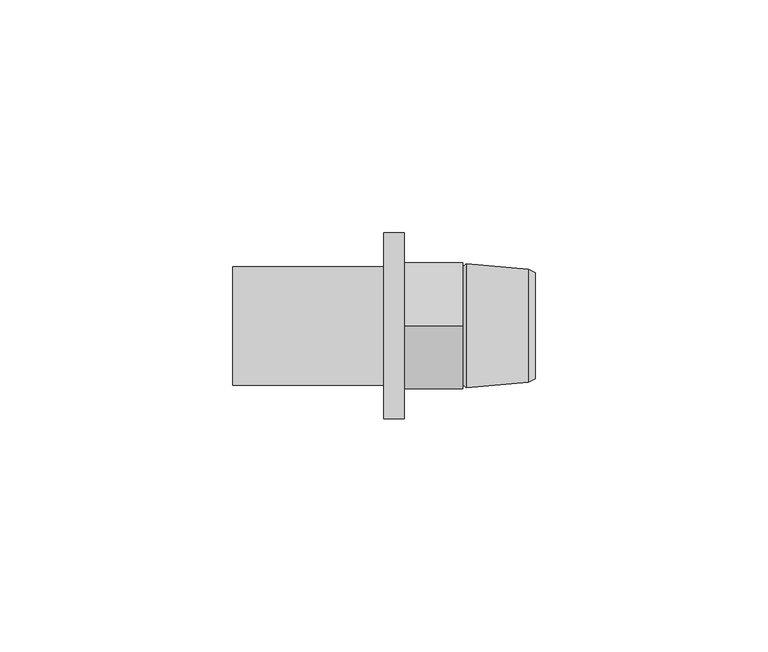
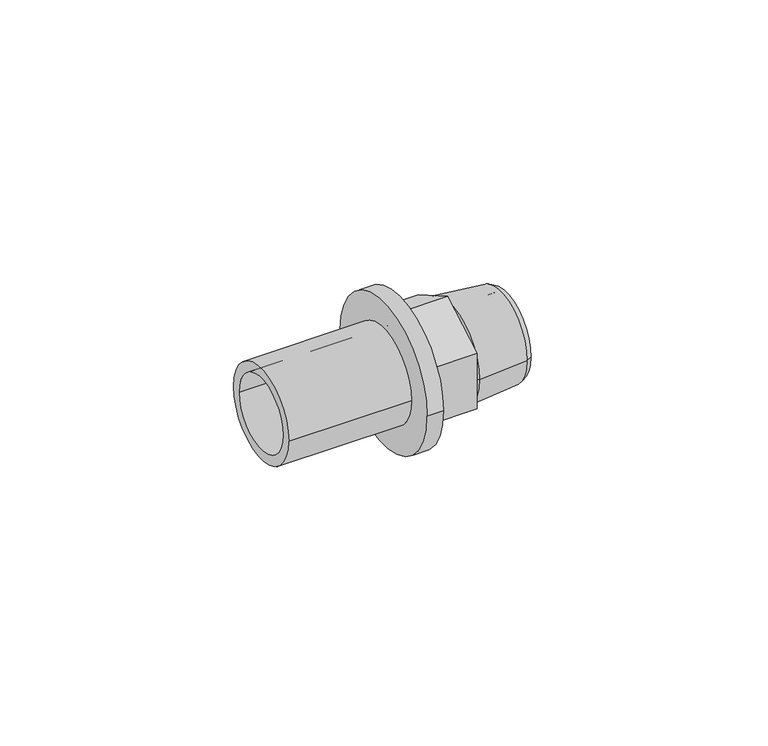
"""IFC4 building model written with IfcOpenShell, lengths in millimetres: pipe fitting geometry, REHAU_RAUTITAN_Adaptor_RX+, with external thread : REHAU_RAUTITAN_Adaptor_RX+, with external thread."""

import ifcopenshell
import ifcopenshell.guid

model = None  # the IFC model being written
_history = None  # IfcOwnerHistory: only IFC2X3 demands one
_inside = {}  # id of a spatial element -> (the spatial element, [elements in it])
_under = {}  # id of a project, library or spatial element -> (it, [spatial elements below it])
_declared = {}  # id of a project -> (the project, [libraries it declares])
_typed = {}  # id of a type object -> (the type object, [elements of that type])
_made_of = {}  # id of a material, layer set ... -> (it, [elements and type objects made of it])


def new_model(schema):
    """Start an empty IFC model of exactly this schema.

    Asked for "IFC4X3", IfcOpenShell would pick the latest addendum, in which some entities
    have other attributes; the version numbers below select the first issue.
    IFC2X3 requires an IfcOwnerHistory on every rooted entity: one is made here for all.
    """
    global model, _history
    if schema == "IFC4X3":
        model = ifcopenshell.file(schema_version=(4, 3, 0, 0))
    else:
        model = ifcopenshell.file(schema=schema)
    _inside.clear()
    _under.clear()
    _declared.clear()
    _typed.clear()
    _made_of.clear()
    _history = None
    if model.schema == "IFC2X3":
        org = make("IfcOrganization", Name="unknown")
        user = make(
            "IfcPersonAndOrganization",
            ThePerson=make("IfcPerson", FamilyName="unknown"),
            TheOrganization=org,
        )
        app = make(
            "IfcApplication",
            ApplicationDeveloper=org,
            Version="unknown",
            ApplicationFullName="unknown",
            ApplicationIdentifier="unknown",
        )
        _history = make(
            "IfcOwnerHistory",
            OwningUser=user,
            OwningApplication=app,
            ChangeAction="ADDED",
            CreationDate=0,
        )
    return model


def make(cls, **values):
    """One entity of the class cls with the attributes given. An attribute that is None is left unset."""
    return model.create_entity(
        cls, **{name: value for name, value in values.items() if value is not None}
    )


def rooted(cls, **values):
    """An entity with a GlobalId (a new one), such as an element, a storey or a relation."""
    return make(cls, GlobalId=ifcopenshell.guid.new(), OwnerHistory=_history, **values)


def si_unit(unit_type, name, prefix=None):
    """IfcSIUnit, for example si_unit("LENGTHUNIT", "METRE", prefix="MILLI")."""
    return make("IfcSIUnit", UnitType=unit_type, Prefix=prefix, Name=name)


def assignment(units):
    """IfcUnitAssignment: the units of a project."""
    return None if units is None else make("IfcUnitAssignment", Units=units)


def point(xyz):
    """IfcCartesianPoint."""
    return None if xyz is None else make("IfcCartesianPoint", Coordinates=xyz)


def direction(xyz):
    """IfcDirection."""
    return None if xyz is None else make("IfcDirection", DirectionRatios=xyz)


def frame(location, z_axis=None, x_axis=None):
    """IfcAxis2Placement3D, a coordinate frame: its origin and axes. An axis left out is left unset."""
    return make(
        "IfcAxis2Placement3D",
        Location=point(location),
        Axis=direction(z_axis),
        RefDirection=direction(x_axis),
    )


def frame_2d(location, x_axis=None):
    """IfcAxis2Placement2D, a coordinate frame in the plane: its origin and x axis."""
    return make(
        "IfcAxis2Placement2D", Location=point(location), RefDirection=direction(x_axis)
    )


def origin():
    """The frame at (0, 0, 0) with its axes left unset."""
    return frame((0.0, 0.0, 0.0))


def origin_2d():
    """The frame at (0, 0) in the plane with its x axis left unset."""
    return frame_2d((0.0, 0.0))


def place(relative_to, where):
    """IfcLocalPlacement: puts the frame where relative to a parent placement (None: the world)."""
    return make(
        "IfcLocalPlacement", PlacementRelTo=relative_to, RelativePlacement=where
    )


def context(
    kind, dimensions, precision=None, world=None, true_north=None, identifier=None
):
    """IfcGeometricRepresentationContext, for example the 3D "Model" context."""
    return make(
        "IfcGeometricRepresentationContext",
        ContextIdentifier=identifier,
        ContextType=kind,
        CoordinateSpaceDimension=dimensions,
        Precision=precision,
        WorldCoordinateSystem=world,
        TrueNorth=true_north,
    )


def project(units=None, contexts=None):
    """IfcProject with its units and contexts."""
    return rooted(
        "IfcProject",
        Name="project",
        RepresentationContexts=contexts,
        UnitsInContext=assignment(units),
    )


def spatial(cls, under=None, at=None, **own):
    """A site, building, storey or space (cls), placed at a placement, below another one or the project."""
    s = rooted(cls, ObjectPlacement=at, **own)
    if under is not None:
        _under.setdefault(under.id(), (under, []))[1].append(s)
    return s


def polyline(points):
    """IfcPolyline through the points."""
    return make("IfcPolyline", Points=[point(p) for p in points])


def circle_curve(where, radius):
    """IfcCircle in the frame where."""
    return make("IfcCircle", Position=where, Radius=radius)


def trimmed(basis, trim1, trim2, sense, master):
    """IfcTrimmedCurve: the piece of a basis curve between two trims."""
    return make(
        "IfcTrimmedCurve",
        BasisCurve=basis,
        Trim1=trim1,
        Trim2=trim2,
        SenseAgreement=sense,
        MasterRepresentation=master,
    )


def segment(curve, same_sense, transition):
    """IfcCompositeCurveSegment."""
    return make(
        "IfcCompositeCurveSegment",
        Transition=transition,
        SameSense=same_sense,
        ParentCurve=curve,
    )


def composite_curve(segments, self_intersect=None):
    """IfcCompositeCurve: segments joined end to end."""
    return make("IfcCompositeCurve", Segments=segments, SelfIntersect=self_intersect)


def outline(outer, holes=None, kind="AREA"):
    """IfcArbitraryClosedProfileDef: a profile drawn as a closed curve; with holes, ...WithVoids."""
    if holes is None:
        return make("IfcArbitraryClosedProfileDef", ProfileType=kind, OuterCurve=outer)
    return make(
        "IfcArbitraryProfileDefWithVoids",
        ProfileType=kind,
        OuterCurve=outer,
        InnerCurves=holes,
    )


def extrude(swept, where, along, depth):
    """IfcExtrudedAreaSolid: the profile swept, set in the frame where, extruded along a direction by depth."""
    return make(
        "IfcExtrudedAreaSolid",
        SweptArea=swept,
        Position=where,
        ExtrudedDirection=direction(along),
        Depth=depth,
    )


def shape(context_of_items, identifier, shape_type, items):
    """IfcShapeRepresentation: the items that make up one representation, for example the "Body"."""
    return make(
        "IfcShapeRepresentation",
        ContextOfItems=context_of_items,
        RepresentationIdentifier=identifier,
        RepresentationType=shape_type,
        Items=items,
    )


def source(mapping_origin, context_of_items, identifier, shape_type, items):
    """IfcRepresentationMap: a shape defined once, which mapped items show again and again."""
    return make(
        "IfcRepresentationMap",
        MappingOrigin=mapping_origin,
        MappedRepresentation=shape(context_of_items, identifier, shape_type, items),
    )


def transform(
    local_origin,
    x_axis=None,
    y_axis=None,
    z_axis=None,
    scale=None,
    scale2=None,
    scale3=None,
    uniform=True,
):
    """IfcCartesianTransformationOperator3D, or its non-uniform kind. x_axis, y_axis, z_axis: its Axis1, 2, 3."""
    if uniform:
        return make(
            "IfcCartesianTransformationOperator3D",
            Axis1=direction(x_axis),
            Axis2=direction(y_axis),
            LocalOrigin=point(local_origin),
            Scale=scale,
            Axis3=direction(z_axis),
        )
    return make(
        "IfcCartesianTransformationOperator3DnonUniform",
        Axis1=direction(x_axis),
        Axis2=direction(y_axis),
        LocalOrigin=point(local_origin),
        Scale=scale,
        Axis3=direction(z_axis),
        Scale2=scale2,
        Scale3=scale3,
    )


def mapped(mapping_source, mapping_target):
    """IfcMappedItem: shows the shape of a source again, moved by a transform."""
    return make(
        "IfcMappedItem", MappingSource=mapping_source, MappingTarget=mapping_target
    )


def made_of(thing, what):
    """Note that an element or type object is made of a material, layer set ...; save() writes the relation."""
    if what is not None:
        _made_of.setdefault(what.id(), (what, []))[1].append(thing)
    return thing


def element(
    cls,
    number,
    at=None,
    inside=None,
    cuts=None,
    type_object=None,
    material=None,
    context=None,
    identifier="Body",
    shape_type=None,
    held_by="IfcProductDefinitionShape",
    body=None,
    shapes=None,
    **own,
):
    """One element of the class cls, such as IfcWall. Its Tag is "e" and its number.

    at: its placement. inside: the storey or other place that contains it. cuts: it is an
    opening in that element (IfcRelVoidsElement). A single representation is given by context,
    identifier, shape_type and body (its items); several are given by shapes. held_by: the class
    of the entity that holds the representations. save() writes the other relations.
    """
    e = rooted(cls, Tag="e%d" % number, ObjectPlacement=at, **own)
    if body is not None:
        shapes = [shape(context, identifier, shape_type, body)]
    if shapes is not None:
        e.Representation = make(held_by, Representations=shapes)
    if inside is not None:
        _inside.setdefault(inside.id(), (inside, []))[1].append(e)
    if cuts is not None:
        rooted(
            "IfcRelVoidsElement", RelatingBuildingElement=cuts, RelatedOpeningElement=e
        )
    if type_object is not None:
        _typed.setdefault(type_object.id(), (type_object, []))[1].append(e)
    return made_of(e, material)


def aggregate(whole, parts):
    """IfcRelAggregates: a whole, such as a stair, and the parts it consists of."""
    return rooted("IfcRelAggregates", RelatingObject=whole, RelatedObjects=parts)


def save(model, path):
    """Write the relations noted so far, then the file.

    IfcRelAggregates (storeys below a building ...), IfcRelContainedInSpatialStructure (elements
    in a storey), IfcRelDefinesByType, IfcRelAssociatesMaterial and IfcRelDeclares: one each for
    every whole, place, type object, material and project.
    """
    for whole, parts in _under.values():
        aggregate(whole, parts)
    for where, things in _inside.values():
        rooted(
            "IfcRelContainedInSpatialStructure",
            RelatedElements=things,
            RelatingStructure=where,
        )
    for kind, things in _typed.values():
        rooted("IfcRelDefinesByType", RelatedObjects=things, RelatingType=kind)
    for what, things in _made_of.values():
        rooted("IfcRelAssociatesMaterial", RelatedObjects=things, RelatingMaterial=what)
    for by, libraries in _declared.values():
        rooted("IfcRelDeclares", RelatingContext=by, RelatedDefinitions=libraries)
    model.write(path)


def plane_surface(at):
    """IfcPlane: the flat surface through the origin of the frame at, square to its z axis."""
    return make("IfcPlane", Position=at)


def cylinder_surface(at, radius):
    """IfcCylindricalSurface: all points at the distance radius from the z axis of the frame at."""
    return make("IfcCylindricalSurface", Position=at, Radius=radius)


def revolved_surface(curve, axis_point, axis_direction):
    """IfcSurfaceOfRevolution: the curve turned about the line through axis_point along axis_direction."""
    return make(
        "IfcSurfaceOfRevolution",
        SweptCurve=make("IfcArbitraryOpenProfileDef", ProfileType="CURVE", Curve=curve),
        AxisPosition=make("IfcAxis1Placement", Location=point(axis_point), Axis=direction(axis_direction)),
    )


def advanced_brep(points, edges, surfaces, faces):
    """IfcAdvancedBrep: a solid bounded by faces that lie on surfaces and meet in shared edges.

    An edge is (start, end): straight between two places in points (the first is 0);
    or (start, end, curve); or (start, end, curve, False) where it runs against its curve.
    A face is (place in surfaces, loops), or (place, loops, False) where it looks against
    its surface's normal. A loop lists edges by number (the first is 1), with a minus sign
    where the edge is run from its end to its start. The first loop is the outer one.
    """
    corners = [point(p) for p in points]
    vertices = [make("IfcVertexPoint", VertexGeometry=c) for c in corners]
    made = []
    for start, end, *more in edges:
        made.append(
            make(
                "IfcEdgeCurve",
                EdgeStart=vertices[start],
                EdgeEnd=vertices[end],
                EdgeGeometry=more[0] if more else make("IfcPolyline", Points=[corners[start], corners[end]]),
                SameSense=more[1] if len(more) > 1 else True,
            )
        )
    hull = []
    for where, loops, *sense in faces:
        bounds = []
        for j, loop in enumerate(loops):
            ring = [make("IfcOrientedEdge", EdgeElement=made[abs(k) - 1], Orientation=k > 0) for k in loop]
            bounds.append(
                make(
                    "IfcFaceOuterBound" if j == 0 else "IfcFaceBound",
                    Bound=make("IfcEdgeLoop", EdgeList=ring),
                    Orientation=True,
                )
            )
        hull.append(make("IfcAdvancedFace", Bounds=bounds, FaceSurface=surfaces[where], SameSense=sense[0] if sense else True))
    return make("IfcAdvancedBrep", Outer=make("IfcClosedShell", CfsFaces=hull))


def pipe_fitting_4d9bfbce(model_context):
    return source(origin(), model_context, "Body", "SolidModel", [
        advanced_brep(
        [(13.7532803, 9.5, 0.0), (13.7532803, -9.5, 0.0), (28.19, -9.5, 0.0), (28.19, 9.5, 0.0), (12.65, 8.3967197, 0.0), (12.65, -8.3967197, 0.0), (13.3906902, 13.29, 0.0), (13.3906902, -13.29, 0.0), (12.65, -12.7, 0.0), (12.65, 12.7, 0.0), (26.6900007, 12.13, 0.0), (26.6900007, -12.13, 0.0), (28.19, 11.375, 0.0), (28.19, -11.375, 0.0)],
        [
            (0, 1, circle_curve(frame((13.7532803, 0.0, 0.0), z_axis=(-1.0, 0.0, 0.0), x_axis=(0.0, -1.0, 0.0)), 9.5)),
            (1, 2),
            (2, 3, circle_curve(frame((28.19, 0.0, 0.0), z_axis=(1.0, 0.0, 0.0), x_axis=(0.0, -1.0, 0.0)), 9.5)),
            (3, 0),
            (4, 5, circle_curve(frame((12.65, 0.0, 0.0), z_axis=(-1.0, 0.0, 0.0), x_axis=(0.0, -1.0, 0.0)), 8.3967197)),
            (5, 1),
            (0, 4),
            (6, 7, circle_curve(frame((13.3906902, 0.0, 0.0), z_axis=(-1.0, 0.0, 0.0), x_axis=(0.0, -1.0, 0.0)), 13.29)),
            (7, 8),
            (8, 9, circle_curve(frame((12.65, 0.0, 0.0), z_axis=(1.0, 0.0, 0.0), x_axis=(0.0, -1.0, 0.0)), 12.7)),
            (9, 6),
            (10, 11, circle_curve(frame((26.6900007, 0.0, 0.0), z_axis=(-1.0, 0.0, 0.0), x_axis=(0.0, -1.0, 0.0)), 12.13)),
            (11, 7),
            (6, 10),
            (12, 13, circle_curve(frame((28.19, 0.0, 0.0), z_axis=(-1.0, 0.0, 0.0), x_axis=(0.0, -1.0, 0.0)), 11.375)),
            (13, 11),
            (10, 12),
            (1, 0, circle_curve(frame((13.7532803, 0.0, 0.0), z_axis=(-1.0, 0.0, 0.0), x_axis=(0.0, 1.0, 0.0)), 9.5)),
            (3, 2, circle_curve(frame((28.19, 0.0, 0.0), z_axis=(1.0, 0.0, 0.0), x_axis=(0.0, 1.0, 0.0)), 9.5)),
            (5, 4, circle_curve(frame((12.65, 0.0, 0.0), z_axis=(-1.0, 0.0, 0.0), x_axis=(0.0, 1.0, 0.0)), 8.3967197)),
            (8, 9, circle_curve(frame((12.65, 0.0, 0.0), z_axis=(-1.0, 0.0, 0.0), x_axis=(0.0, 1.0, 0.0)), 12.7)),
            (7, 6, circle_curve(frame((13.3906902, 0.0, 0.0), z_axis=(-1.0, 0.0, 0.0), x_axis=(0.0, 1.0, 0.0)), 13.29)),
            (11, 10, circle_curve(frame((26.6900007, 0.0, 0.0), z_axis=(-1.0, 0.0, 0.0), x_axis=(0.0, 1.0, 0.0)), 12.13)),
            (13, 12, circle_curve(frame((28.19, 0.0, 0.0), z_axis=(-1.0, 0.0, 0.0), x_axis=(0.0, 1.0, 0.0)), 11.375)),
        ],
        [
            revolved_surface(polyline([(28.19, -9.5, 0.0), (13.7532803, -9.5, 0.0)]), (0.0, 0.0, 0.0), (1.0, 0.0, 0.0)),
            revolved_surface(polyline([(13.7532803, -9.5, 0.0), (12.65, -8.3967197, 0.0)]), (0.0, 0.0, 0.0), (1.0, 0.0, 0.0)),
            revolved_surface(polyline([(12.65, -12.7, 0.0), (13.3906902, -13.29, 0.0)]), (0.0, 0.0, 0.0), (1.0, 0.0, 0.0)),
            revolved_surface(polyline([(13.3906902, -13.29, 0.0), (26.6900007, -12.13, 0.0)]), (0.0, 0.0, 0.0), (1.0, 0.0, 0.0)),
            revolved_surface(polyline([(26.6900007, -12.13, 0.0), (28.19, -11.375, 0.0)]), (0.0, 0.0, 0.0), (1.0, 0.0, 0.0)),
            revolved_surface(polyline([(28.19, 9.5, 0.0), (13.7532803, 9.5, 0.0)]), (0.0, 0.0, 0.0), (1.0, 0.0, 0.0)),
            revolved_surface(polyline([(13.7532803, 9.5, 0.0), (12.65, 8.3967197, 0.0)]), (0.0, 0.0, 0.0), (1.0, 0.0, 0.0)),
            plane_surface(frame((12.65, 0.0, 0.0), z_axis=(-1.0, 0.0, 0.0), x_axis=(0.0, 1.0, 0.0))),
            revolved_surface(polyline([(12.65, 12.7, 0.0), (13.3906902, 13.29, 0.0)]), (0.0, 0.0, 0.0), (1.0, 0.0, 0.0)),
            revolved_surface(polyline([(13.3906902, 13.29, 0.0), (26.6900007, 12.13, 0.0)]), (0.0, 0.0, 0.0), (1.0, 0.0, 0.0)),
            revolved_surface(polyline([(26.6900007, 12.13, 0.0), (28.19, 11.375, 0.0)]), (0.0, 0.0, 0.0), (1.0, 0.0, 0.0)),
            plane_surface(frame((28.19, 0.0, 0.0), z_axis=(1.0, 0.0, 0.0), x_axis=(0.0, 1.0, 0.0))),
        ],
        [
            (0, [[1, 2, 3, 4]]),
            (1, [[5, 6, -1, 7]]),
            (2, [[8, 9, 10, 11]]),
            (3, [[12, 13, -8, 14]]),
            (4, [[15, 16, -12, 17]]),
            (5, [[18, -4, 19, -2]]),
            (6, [[20, -7, -18, -6]]),
            (7, [[21, -10], [-20, -5]]),
            (8, [[22, -11, -21, -9]]),
            (9, [[23, -14, -22, -13]]),
            (10, [[24, -17, -23, -16]]),
            (11, [[-24, -15], [-19, -3]]),
        ],
    ),
        extrude(outline(polyline([(0.0, -15.5884573), (-13.5, -7.7942286), (-13.5, 7.7942286), (0.0, 15.5884573), (13.5, 7.7942286), (13.5, -7.7942286), (0.0, -15.5884573)]), holes=[composite_curve([segment(trimmed(circle_curve(origin_2d(), 10.0), [point((-10.0, 0.0))], [point((10.0, 0.0))], True, "CARTESIAN"), True, "CONTINUOUS"), segment(trimmed(circle_curve(origin_2d(), 10.0), [point((10.0, 0.0))], [point((-10.0, 0.0))], True, "CARTESIAN"), True, "CONTINUOUS")], self_intersect=False)]), frame((0.0, 0.0, 0.0), z_axis=(1.0, 0.0, 0.0), x_axis=(0.0, 1.0, 0.0)), (0.0, 0.0, 1.0), 12.65),
        advanced_brep(
        [(-36.81, 10.0, 0.0), (-36.81, -10.0, 0.0), (0.0, -10.0, 0.0), (0.0, 10.0, 0.0), (-4.33, 12.725, 0.0), (-4.33, -12.725, 0.0), (-36.81, -12.725, 0.0), (-36.81, 12.725, 0.0), (0.0, 20.0, 0.0), (0.0, -20.0, 0.0), (-4.33, -20.0, 0.0), (-4.33, 20.0, 0.0)],
        [
            (0, 1, circle_curve(frame((-36.81, 0.0, 0.0), z_axis=(-1.0, 0.0, 0.0), x_axis=(0.0, -1.0, 0.0)), 10.0)),
            (1, 2),
            (2, 3, circle_curve(frame((0.0, 0.0, 0.0), z_axis=(1.0, 0.0, 0.0), x_axis=(0.0, -1.0, 0.0)), 10.0)),
            (3, 0),
            (4, 5, circle_curve(frame((-4.33, 0.0, 0.0), z_axis=(-1.0, 0.0, 0.0), x_axis=(0.0, -1.0, 0.0)), 12.725)),
            (5, 6),
            (6, 7, circle_curve(frame((-36.81, 0.0, 0.0), z_axis=(1.0, 0.0, 0.0), x_axis=(0.0, -1.0, 0.0)), 12.725)),
            (7, 4),
            (8, 9, circle_curve(frame((0.0, 0.0, 0.0), z_axis=(-1.0, 0.0, 0.0), x_axis=(0.0, -1.0, 0.0)), 20.0)),
            (9, 10),
            (10, 11, circle_curve(frame((-4.33, 0.0, 0.0), z_axis=(1.0, 0.0, 0.0), x_axis=(0.0, -1.0, 0.0)), 20.0)),
            (11, 8),
            (8, 9, circle_curve(frame((0.0, 0.0, 0.0), z_axis=(1.0, 0.0, 0.0), x_axis=(0.0, 1.0, 0.0)), 20.0)),
            (2, 3, circle_curve(frame((0.0, 0.0, 0.0), z_axis=(-1.0, 0.0, 0.0), x_axis=(0.0, 1.0, 0.0)), 10.0)),
            (1, 0, circle_curve(frame((-36.81, 0.0, 0.0), z_axis=(-1.0, 0.0, 0.0), x_axis=(0.0, 1.0, 0.0)), 10.0)),
            (6, 7, circle_curve(frame((-36.81, 0.0, 0.0), z_axis=(-1.0, 0.0, 0.0), x_axis=(0.0, 1.0, 0.0)), 12.725)),
            (5, 4, circle_curve(frame((-4.33, 0.0, 0.0), z_axis=(-1.0, 0.0, 0.0), x_axis=(0.0, 1.0, 0.0)), 12.725)),
            (10, 11, circle_curve(frame((-4.33, 0.0, 0.0), z_axis=(-1.0, 0.0, 0.0), x_axis=(0.0, 1.0, 0.0)), 20.0)),
        ],
        [
            revolved_surface(polyline([(0.0, -10.0, 0.0), (-36.81, -10.0, 0.0)]), (0.0, 0.0, 0.0), (1.0, 0.0, 0.0)),
            cylinder_surface(frame((0.0, 0.0, 0.0), z_axis=(1.0, 0.0, 0.0), x_axis=(0.0, -1.0, 0.0)), 12.725),
            cylinder_surface(frame((0.0, 0.0, 0.0), z_axis=(1.0, 0.0, 0.0), x_axis=(0.0, -1.0, 0.0)), 20.0),
            plane_surface(frame((0.0, 0.0, 0.0), z_axis=(1.0, 0.0, 0.0), x_axis=(0.0, 1.0, 0.0))),
            revolved_surface(polyline([(0.0, 10.0, 0.0), (-36.81, 10.0, 0.0)]), (0.0, 0.0, 0.0), (1.0, 0.0, 0.0)),
            plane_surface(frame((-36.81, 0.0, 0.0), z_axis=(-1.0, 0.0, 0.0), x_axis=(0.0, 1.0, 0.0))),
            cylinder_surface(frame((0.0, 0.0, 0.0), z_axis=(1.0, 0.0, 0.0), x_axis=(0.0, 1.0, 0.0)), 12.725),
            plane_surface(frame((-4.33, 0.0, 0.0), z_axis=(-1.0, 0.0, 0.0), x_axis=(0.0, 1.0, 0.0))),
            cylinder_surface(frame((0.0, 0.0, 0.0), z_axis=(1.0, 0.0, 0.0), x_axis=(0.0, 1.0, 0.0)), 20.0),
        ],
        [
            (0, [[1, 2, 3, 4]]),
            (1, [[5, 6, 7, 8]]),
            (2, [[9, 10, 11, 12]]),
            (3, [[13, -9], [14, -3]]),
            (4, [[15, -4, -14, -2]]),
            (5, [[16, -7], [-15, -1]]),
            (6, [[17, -8, -16, -6]]),
            (7, [[18, -11], [-17, -5]]),
            (8, [[-13, -12, -18, -10]]),
        ],
    ),
    ])


if __name__ == "__main__":
    model = new_model("IFC4")
    model_context = context("Model", 3, world=origin())
    ifc_project = project(units=[si_unit("LENGTHUNIT", "METRE", prefix="MILLI")], contexts=[model_context])
    site = spatial("IfcSite", under=ifc_project)
    building = spatial("IfcBuilding", under=site)
    placement = place(None, origin())
    pipe_fitting_shape = pipe_fitting_4d9bfbce(model_context)
    element("IfcPipeFitting", 1, ObjectType="REHAU_RAUTITAN_Adaptor_RX+, with external thread : REHAU_RAUTITAN_Adaptor_RX+, with external thread", at=placement, inside=building, context=model_context, shape_type="MappedRepresentation", body=[
        mapped(pipe_fitting_shape, transform((0.0, 0.0, 0.0), x_axis=(1.0, 0.0, 0.0), y_axis=(0.0, 1.0, 0.0), z_axis=(0.0, 0.0, 1.0))),
    ])
    save(model, "model.ifc")
